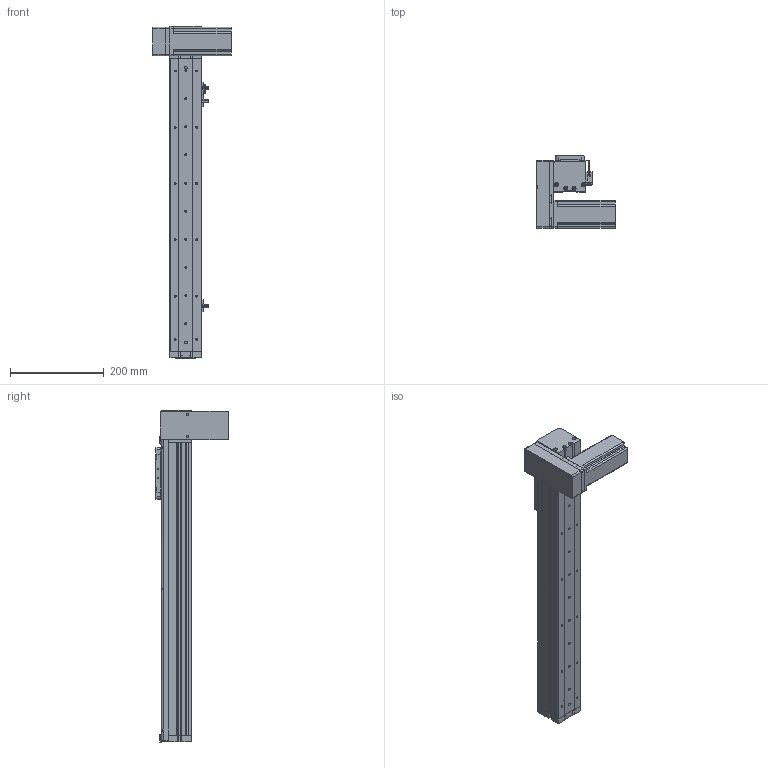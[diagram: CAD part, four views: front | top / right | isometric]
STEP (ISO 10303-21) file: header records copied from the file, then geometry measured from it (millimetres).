
FILE_DESCRIPTION (( 'STEP AP214' ), '1' );
FILE_NAME ('KSD68BS-S450-MRD-CR.STEP', '2019-11-08T03:05:59', ( '微软用户' ), ( '微软中国' ), 'SwSTEP 2.0', 'SolidWorks 2014', '' );
FILE_SCHEMA (( 'AUTOMOTIVE_DESIGN' ));
Length unit declared in the file: millimetre
Products named in the file (14): 68宽单导轨全封闭丝杆传动安装板1防护罩; KSD68BS 450行程侧板全封闭; 68宽单导轨全封闭同步带端板; 68单导轨全封闭同步带电机座右; 68单导轨全封闭同步带安装板; 悵誘欶奻狟殏; 68遵裔啣揤啣1; 68宽马达安装板连板上折同步带; 感应片68宽全封闭; U倰嫖萇EEㄜSX672; 台达ECMA－C20604AS伺服电机（400W); KSD68BS 450行程盖板全封闭; KSD68BS 450行程底板全封闭; KSD68BS-S450-MRD-CR
Assembly tree (17 placements, depth 2):
  KSD68BS-S450-MRD-CR
    KSD68BS 450行程底板全封闭
    台达ECMA－C20604AS伺服电机（400W)
    U倰嫖萇EEㄜSX672  x3
    感应片68宽全封闭
    68宽马达安装板连板上折同步带
    悵誘欶奻狟殏
    68单导轨全封闭同步带安装板
    68单导轨全封闭同步带电机座右
    68宽单导轨全封闭同步带端板
    KSD68BS 450行程侧板全封闭  x2
    68宽单导轨全封闭丝杆传动安装板1防护罩
    68遵裔啣揤啣1  x2
    KSD68BS 450行程盖板全封闭
Bounding box: 167.2 x 155.5 x 708.1 mm (x, y, z)
Volume: 1796804.9 mm3; surface area: 621987.9 mm2
Topology: 18 solids, 18 shells, 1388 faces, 3913 edges, 2515 vertices
Faces by surface type: cylinder 629, plane 623, cone 136
Entity records: 43114 total; most frequent: CARTESIAN_POINT 7221, DIRECTION 6529, ORIENTED_EDGE 6254, EDGE_CURVE 3127, AXIS2_PLACEMENT_3D 2325, VERTEX_POINT 2053, VECTOR 1879, LINE 1879
